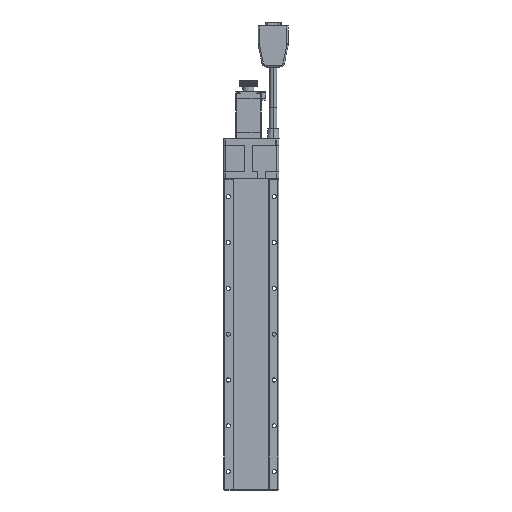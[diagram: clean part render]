
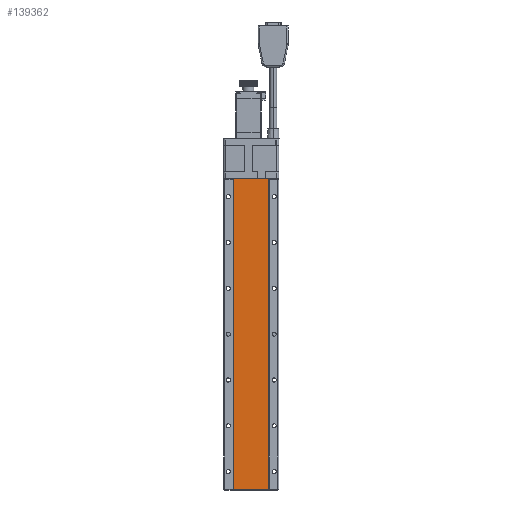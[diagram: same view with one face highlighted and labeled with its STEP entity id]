
A CAD part, front view. The second image highlights one B-rep face of the part: STEP entity #139362.
In plain terms, the highlighted planar face has unit normal (0, -1, 0).
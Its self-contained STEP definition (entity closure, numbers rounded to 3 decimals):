
#631 = LINE ( 'NONE', #72416, #99575 ) ;
#885 = VERTEX_POINT ( 'NONE', #64088 ) ;
#9120 = ORIENTED_EDGE ( 'NONE', *, *, #40485, .T. ) ;
#14087 = CARTESIAN_POINT ( 'NONE',  ( -19.3, 0.8, 339.8 ) ) ;
#16582 = PLANE ( 'NONE',  #113329 ) ;
#25858 = VERTEX_POINT ( 'NONE', #45387 ) ;
#29725 = CARTESIAN_POINT ( 'NONE',  ( -19.3, 0.8, 339.8 ) ) ;
#30229 = EDGE_CURVE ( 'NONE', #78739, #85944, #631, .T. ) ;
#34870 = ORIENTED_EDGE ( 'NONE', *, *, #110243, .T. ) ;
#40485 = EDGE_CURVE ( 'NONE', #885, #25858, #115639, .T. ) ;
#44259 = EDGE_LOOP ( 'NONE', ( #118949, #34870, #9120, #119430 ) ) ;
#45387 = CARTESIAN_POINT ( 'NONE',  ( 19.3, 0.8, 339.8 ) ) ;
#46287 = CARTESIAN_POINT ( 'NONE',  ( -19.3, 0.8, 0.2 ) ) ;
#50365 = DIRECTION ( 'NONE',  ( 0., 1., 0. ) ) ;
#58307 = DIRECTION ( 'NONE',  ( 0., 0., 1. ) ) ;
#64088 = CARTESIAN_POINT ( 'NONE',  ( 19.3, 0.8, 0.2 ) ) ;
#68856 = VECTOR ( 'NONE', #93479, 1000. ) ;
#72416 = CARTESIAN_POINT ( 'NONE',  ( -19.3, 0.8, 0.2 ) ) ;
#78739 = VERTEX_POINT ( 'NONE', #106744 ) ;
#85944 = VERTEX_POINT ( 'NONE', #46287 ) ;
#87254 = VECTOR ( 'NONE', #58307, 1000. ) ;
#92868 = CARTESIAN_POINT ( 'NONE',  ( 19.3, 0.8, 0.2 ) ) ;
#93479 = DIRECTION ( 'NONE',  ( -1., 0., 0. ) ) ;
#94575 = VECTOR ( 'NONE', #95365, 1000. ) ;
#95365 = DIRECTION ( 'NONE',  ( 1., 0., 0. ) ) ;
#96078 = CARTESIAN_POINT ( 'NONE',  ( -19.3, 0.8, 0.2 ) ) ;
#97397 = FACE_OUTER_BOUND ( 'NONE', #44259, .T. ) ;
#99575 = VECTOR ( 'NONE', #113053, 1000. ) ;
#106356 = LINE ( 'NONE', #96078, #94575 ) ;
#106744 = CARTESIAN_POINT ( 'NONE',  ( -19.3, 0.8, 339.8 ) ) ;
#108407 = DIRECTION ( 'NONE',  ( -1., 0., 0. ) ) ;
#110243 = EDGE_CURVE ( 'NONE', #85944, #885, #106356, .T. ) ;
#113053 = DIRECTION ( 'NONE',  ( 0., 0., -1. ) ) ;
#113329 = AXIS2_PLACEMENT_3D ( 'NONE', #29725, #50365, #108407 ) ;
#115639 = LINE ( 'NONE', #92868, #87254 ) ;
#118949 = ORIENTED_EDGE ( 'NONE', *, *, #30229, .T. ) ;
#119430 = ORIENTED_EDGE ( 'NONE', *, *, #127391, .T. ) ;
#127391 = EDGE_CURVE ( 'NONE', #25858, #78739, #136811, .T. ) ;
#136811 = LINE ( 'NONE', #14087, #68856 ) ;
#139362 = ADVANCED_FACE ( 'NONE', ( #97397 ), #16582, .F. ) ;
